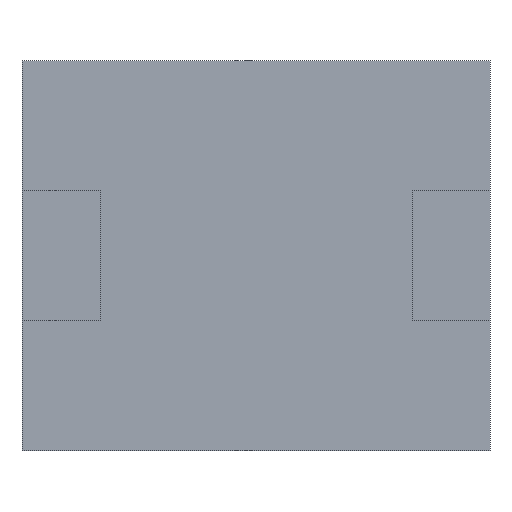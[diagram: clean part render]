
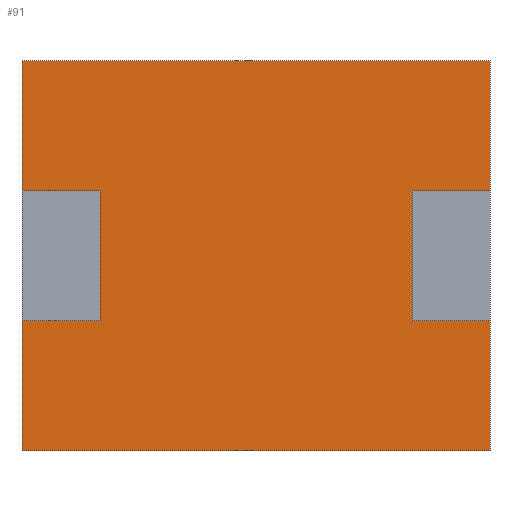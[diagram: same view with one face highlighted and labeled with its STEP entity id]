
A CAD part, front view. The second image highlights one B-rep face of the part: STEP entity #91.
In plain terms, the highlighted planar face has unit normal (0, -1, 0).
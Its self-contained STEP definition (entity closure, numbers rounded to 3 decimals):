
#91 = ADVANCED_FACE( '', ( #137 ), #138, .F. );
#137 = FACE_OUTER_BOUND( '', #195, .T. );
#138 = PLANE( '', #196 );
#195 = EDGE_LOOP( '', ( #346, #347, #348, #349, #350, #351, #352, #353, #354, #355, #356, #357 ) );
#196 = AXIS2_PLACEMENT_3D( '', #358, #359, #360 );
#346 = ORIENTED_EDGE( '', *, *, #477, .T. );
#347 = ORIENTED_EDGE( '', *, *, #484, .F. );
#348 = ORIENTED_EDGE( '', *, *, #495, .F. );
#349 = ORIENTED_EDGE( '', *, *, #496, .F. );
#350 = ORIENTED_EDGE( '', *, *, #497, .F. );
#351 = ORIENTED_EDGE( '', *, *, #498, .F. );
#352 = ORIENTED_EDGE( '', *, *, #499, .F. );
#353 = ORIENTED_EDGE( '', *, *, #500, .F. );
#354 = ORIENTED_EDGE( '', *, *, #501, .F. );
#355 = ORIENTED_EDGE( '', *, *, #485, .F. );
#356 = ORIENTED_EDGE( '', *, *, #471, .T. );
#357 = ORIENTED_EDGE( '', *, *, #464, .T. );
#358 = CARTESIAN_POINT( '', ( 0., -28., 0. ) );
#359 = DIRECTION( '', ( 0., 1., 0. ) );
#360 = DIRECTION( '', ( 0., 0., 1. ) );
#464 = EDGE_CURVE( '', #548, #549, #550, .T. );
#471 = EDGE_CURVE( '', #561, #548, #562, .T. );
#477 = EDGE_CURVE( '', #549, #571, #572, .T. );
#484 = EDGE_CURVE( '', #580, #571, #582, .T. );
#485 = EDGE_CURVE( '', #561, #583, #584, .T. );
#495 = EDGE_CURVE( '', #601, #580, #602, .T. );
#496 = EDGE_CURVE( '', #603, #601, #604, .T. );
#497 = EDGE_CURVE( '', #605, #603, #606, .T. );
#498 = EDGE_CURVE( '', #607, #605, #608, .T. );
#499 = EDGE_CURVE( '', #609, #607, #610, .T. );
#500 = EDGE_CURVE( '', #611, #609, #612, .T. );
#501 = EDGE_CURVE( '', #583, #611, #613, .T. );
#548 = VERTEX_POINT( '', #676 );
#549 = VERTEX_POINT( '', #677 );
#550 = LINE( '', #678, #679 );
#561 = VERTEX_POINT( '', #696 );
#562 = LINE( '', #697, #698 );
#571 = VERTEX_POINT( '', #712 );
#572 = LINE( '', #713, #714 );
#580 = VERTEX_POINT( '', #727 );
#582 = LINE( '', #730, #731 );
#583 = VERTEX_POINT( '', #732 );
#584 = LINE( '', #733, #734 );
#601 = VERTEX_POINT( '', #760 );
#602 = LINE( '', #761, #762 );
#603 = VERTEX_POINT( '', #763 );
#604 = LINE( '', #764, #765 );
#605 = VERTEX_POINT( '', #766 );
#606 = LINE( '', #767, #768 );
#607 = VERTEX_POINT( '', #769 );
#608 = LINE( '', #770, #771 );
#609 = VERTEX_POINT( '', #772 );
#610 = LINE( '', #773, #774 );
#611 = VERTEX_POINT( '', #775 );
#612 = LINE( '', #776, #777 );
#613 = LINE( '', #778, #779 );
#676 = CARTESIAN_POINT( '', ( 56., -28., -10. ) );
#677 = CARTESIAN_POINT( '', ( 56., -28., 10. ) );
#678 = CARTESIAN_POINT( '', ( 56., -28., -5. ) );
#679 = VECTOR( '', #856, 1. );
#696 = CARTESIAN_POINT( '', ( 68., -28., -10. ) );
#697 = CARTESIAN_POINT( '', ( 34., -28., -10. ) );
#698 = VECTOR( '', #863, 1. );
#712 = CARTESIAN_POINT( '', ( 68., -28., 10. ) );
#713 = CARTESIAN_POINT( '', ( 28., -28., 10. ) );
#714 = VECTOR( '', #869, 1. );
#727 = CARTESIAN_POINT( '', ( 68., -28., 30. ) );
#730 = CARTESIAN_POINT( '', ( 68., -28., 30. ) );
#731 = VECTOR( '', #876, 1. );
#732 = CARTESIAN_POINT( '', ( 68., -28., -30. ) );
#733 = CARTESIAN_POINT( '', ( 68., -28., 30. ) );
#734 = VECTOR( '', #877, 1. );
#760 = CARTESIAN_POINT( '', ( -4., -28., 30. ) );
#761 = CARTESIAN_POINT( '', ( -4., -28., 30. ) );
#762 = VECTOR( '', #887, 1. );
#763 = CARTESIAN_POINT( '', ( -4., -28., 10. ) );
#764 = CARTESIAN_POINT( '', ( -4., -28., -30. ) );
#765 = VECTOR( '', #888, 1. );
#766 = CARTESIAN_POINT( '', ( 8., -28., 10. ) );
#767 = CARTESIAN_POINT( '', ( -2., -28., 10. ) );
#768 = VECTOR( '', #889, 1. );
#769 = CARTESIAN_POINT( '', ( 8., -28., -10. ) );
#770 = CARTESIAN_POINT( '', ( 8., -28., 5. ) );
#771 = VECTOR( '', #890, 1. );
#772 = CARTESIAN_POINT( '', ( -4., -28., -10. ) );
#773 = CARTESIAN_POINT( '', ( 4., -28., -10. ) );
#774 = VECTOR( '', #891, 1. );
#775 = CARTESIAN_POINT( '', ( -4., -28., -30. ) );
#776 = CARTESIAN_POINT( '', ( -4., -28., -30. ) );
#777 = VECTOR( '', #892, 1. );
#778 = CARTESIAN_POINT( '', ( 68., -28., -30. ) );
#779 = VECTOR( '', #893, 1. );
#856 = DIRECTION( '', ( 0., 0., 1. ) );
#863 = DIRECTION( '', ( -1., 0., 0. ) );
#869 = DIRECTION( '', ( 1., 0., 0. ) );
#876 = DIRECTION( '', ( 0., 0., -1. ) );
#877 = DIRECTION( '', ( 0., 0., -1. ) );
#887 = DIRECTION( '', ( 1., 0., 0. ) );
#888 = DIRECTION( '', ( 0., 0., 1. ) );
#889 = DIRECTION( '', ( -1., 0., 0. ) );
#890 = DIRECTION( '', ( 0., 0., 1. ) );
#891 = DIRECTION( '', ( 1., 0., 0. ) );
#892 = DIRECTION( '', ( 0., 0., 1. ) );
#893 = DIRECTION( '', ( -1., 0., 0. ) );
